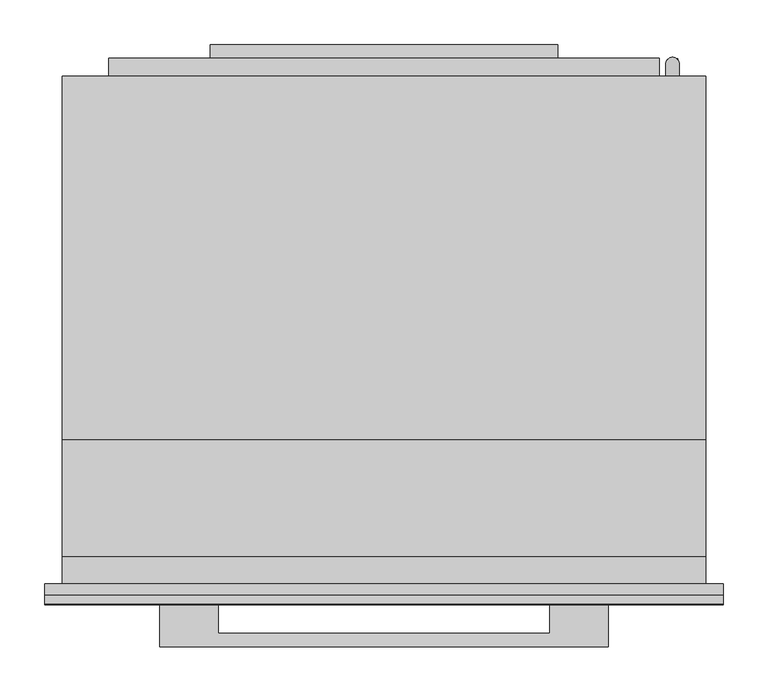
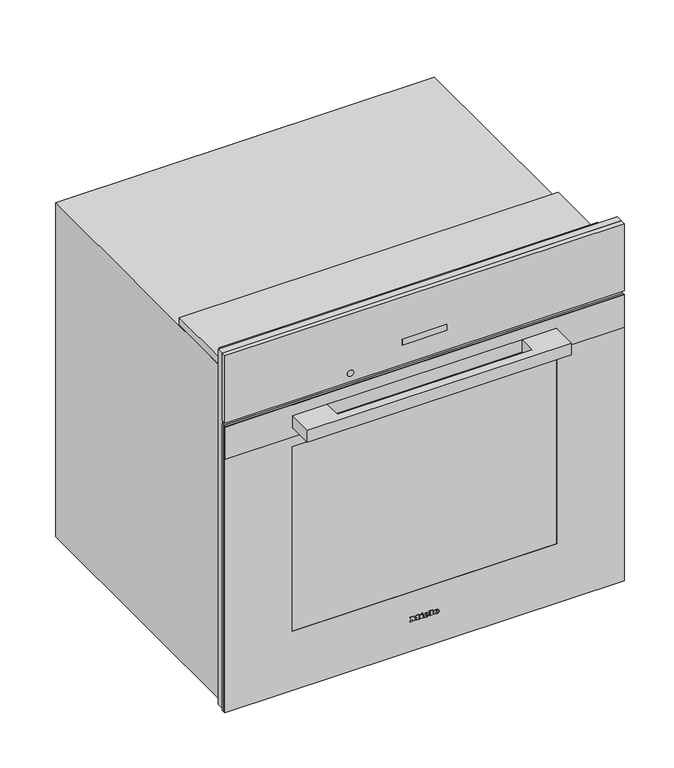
"""IFC4 building model written with IfcOpenShell, lengths in millimetres: proxy geometry, 11805500_USA_H7280BP_EDST-CLST : 22728045_USA_11805500_H7280BP_EDST-CLST."""

from ifc_helpers import new_model, si_unit, point, frame, frame_2d, origin, place, context, project, spatial, polyline, circle_curve, ellipse_curve, trimmed, segment, composite_curve, outline, extrude, faceted_brep, source, transform, mapped, element, save
from ifc_brep_helpers import plane_surface, cylinder_surface, revolved_surface, extruded_surface, advanced_brep


def specialty_equipment_05982ed7(model_context):
    return source(origin(), model_context, "Body", "SolidModel", [
        advanced_brep(
        [(21.28, -23.0, 73.133), (21.28, -23.0, 74.042), (27.301, -23.0, 74.042), (16.825, -23.0, 74.042), (19.3, -23.0, 71.0), (27.148, -23.0, 73.133), (24.43, -23.0, 73.133), (22.288, -23.0, 72.125), (21.28, -23.0, 75.194), (21.28, -23.0, 76.175), (22.819, -23.0, 76.175), (22.819, -23.0, 75.194), (21.28, -22.0, 73.133), (22.288, -22.0, 72.125), (24.43, -22.0, 73.133), (27.148, -22.0, 73.133), (19.3, -22.0, 71.0), (16.825, -22.0, 74.042), (27.301, -22.0, 74.042), (21.28, -22.0, 74.042), (21.28, -22.0, 75.194), (22.819, -22.0, 75.194), (22.819, -22.0, 76.175), (21.28, -22.0, 76.175)],
        [
            (0, 1),
            (1, 2),
            (2, 3, ellipse_curve(frame((22.063, -23.0, 74.042), z_axis=(0.0, -1.0, 0.0), x_axis=(-1.0, 0.0, 0.0)), 5.238, 4.329)),
            (3, 4, circle_curve(frame((20.3080491, -23.0, 74.348), z_axis=(0.0, -1.0, 0.0), x_axis=(0.0, 0.0, -1.0)), 3.4964649)),
            (4, 5, circle_curve(frame((21.9581428, -23.0, 76.724), z_axis=(0.0, -1.0, 0.0), x_axis=(0.0, 0.0, -1.0)), 6.3110933)),
            (5, 6),
            (6, 7, circle_curve(frame((22.7279412, -23.0, 73.97), z_axis=(0.0, 1.0, 0.0), x_axis=(0.0, 0.0, -1.0)), 1.896727)),
            (7, 0, circle_curve(frame((22.288, -23.0, 73.133), z_axis=(0.0, 1.0, 0.0), x_axis=(0.0, 0.0, -1.0)), 1.008)),
            (8, 9),
            (9, 10, circle_curve(frame((22.0495, -23.0, 76.175), z_axis=(0.0, 1.0, 0.0), x_axis=(0.0, 0.0, -1.0)), 0.7695)),
            (10, 11),
            (11, 8),
            (12, 13, circle_curve(frame((22.288, -22.0, 73.133), z_axis=(0.0, -1.0, 0.0), x_axis=(0.0, 0.0, -1.0)), 1.008)),
            (13, 14, circle_curve(frame((22.7279412, -22.0, 73.97), z_axis=(0.0, -1.0, 0.0), x_axis=(0.0, 0.0, -1.0)), 1.896727)),
            (14, 15),
            (15, 16, circle_curve(frame((21.9581428, -22.0, 76.724), z_axis=(0.0, 1.0, 0.0), x_axis=(0.0, 0.0, -1.0)), 6.3110933)),
            (16, 17, circle_curve(frame((20.3080491, -22.0, 74.348), z_axis=(0.0, 1.0, 0.0), x_axis=(0.0, 0.0, -1.0)), 3.4964649)),
            (17, 18, ellipse_curve(frame((22.063, -22.0, 74.042), z_axis=(0.0, 1.0, 0.0), x_axis=(-1.0, 0.0, 0.0)), 5.238, 4.329)),
            (18, 19),
            (19, 12),
            (20, 21),
            (21, 22),
            (22, 23, circle_curve(frame((22.0495, -22.0, 76.175), z_axis=(0.0, -1.0, 0.0), x_axis=(0.0, 0.0, -1.0)), 0.7695)),
            (23, 20),
            (0, 12),
            (19, 1),
            (18, 2),
            (5, 15),
            (14, 6),
            (17, 3),
            (13, 7),
            (16, 4),
            (8, 20),
            (23, 9),
            (22, 10),
            (21, 11),
        ],
        [
            plane_surface(frame((21.28, -23.0, 74.042), z_axis=(0.0, -1.0, 0.0), x_axis=(0.0, 0.0, 1.0))),
            plane_surface(frame((21.28, -22.0, 74.042), z_axis=(0.0, 1.0, 0.0), x_axis=(0.0, 0.0, -1.0))),
            plane_surface(frame((21.28, -23.0, 73.133), z_axis=(1.0, 0.0, 0.0), x_axis=(0.0, 1.0, 0.0))),
            plane_surface(frame((21.28, -23.0, 74.042), z_axis=(0.0, 0.0, -1.0), x_axis=(0.0, 1.0, 0.0))),
            plane_surface(frame((27.148, -23.0, 73.133), z_axis=(0.0, 0.0, 1.0), x_axis=(0.0, 1.0, 0.0))),
            extruded_surface(trimmed(ellipse_curve(frame((22.063, -21.0, 74.042), z_axis=(0.0, -1.0, 0.0), x_axis=(-1.0, 0.0, 0.0)), 5.238, 4.329), [point((27.301, -21.0, 74.042))], [point((16.825, -21.0, 74.042))], True, "CARTESIAN"), (0.0, -1.0, 0.0), 1.0),
            revolved_surface(polyline([(22.7279412, -22.0, 72.073273), (22.7279412, -23.0, 72.073273)]), (22.7279412, -22.0, 73.97), (0.0, 1.0, 0.0)),
            revolved_surface(polyline([(22.288, -22.0, 72.125), (22.288, -23.0, 72.125)]), (22.288, -22.0, 73.133), (0.0, 1.0, 0.0)),
            cylinder_surface(frame((20.3080491, -22.0, 74.348), z_axis=(0.0, -1.0, 0.0), x_axis=(0.0, 0.0, -1.0)), 3.4964649),
            cylinder_surface(frame((21.9581428, -22.0, 76.724), z_axis=(0.0, -1.0, 0.0), x_axis=(0.0, 0.0, -1.0)), 6.3110933),
            plane_surface(frame((21.28, -23.0, 75.194), z_axis=(1.0, 0.0, 0.0), x_axis=(0.0, 1.0, 0.0))),
            revolved_surface(polyline([(22.0495, -22.0, 75.4055), (22.0495, -23.0, 75.4055)]), (22.0495, -22.0, 76.175), (0.0, 1.0, 0.0)),
            plane_surface(frame((22.819, -23.0, 76.175), z_axis=(-1.0, 0.0, 0.0), x_axis=(0.0, 1.0, 0.0))),
            plane_surface(frame((22.819, -23.0, 75.194), z_axis=(0.0, 0.0, 1.0), x_axis=(0.0, 1.0, 0.0))),
        ],
        [
            (0, [[1, 2, 3, 4, 5, 6, 7, 8], [9, 10, 11, 12]]),
            (1, [[13, 14, 15, 16, 17, 18, 19, 20], [21, 22, 23, 24]]),
            (2, [[-1, 25, -20, 26]]),
            (3, [[-2, -26, -19, 27]]),
            (4, [[-6, 28, -15, 29]]),
            (5, [[-3, -27, -18, 30]]),
            (6, [[-7, -29, -14, 31]]),
            (7, [[-8, -31, -13, -25]]),
            (8, [[-4, -30, -17, 32]]),
            (9, [[-5, -32, -16, -28]]),
            (10, [[-9, 33, -24, 34]]),
            (11, [[-10, -34, -23, 35]]),
            (12, [[-11, -35, -22, 36]]),
            (13, [[-12, -36, -21, -33]]),
        ],
    ),
        advanced_brep(
        [(2.497, -23.0, 73.133), (2.497, -23.0, 74.042), (8.518, -23.0, 74.042), (-1.958, -23.0, 74.042), (0.517, -23.0, 71.0), (8.365, -23.0, 73.133), (5.647, -23.0, 73.133), (3.505, -23.0, 72.125), (2.497, -23.0, 75.194), (2.497, -23.0, 76.175), (4.036, -23.0, 76.175), (4.036, -23.0, 75.194), (2.497, -22.0, 73.133), (3.505, -22.0, 72.125), (5.647, -22.0, 73.133), (8.365, -22.0, 73.133), (0.517, -22.0, 71.0), (-1.958, -22.0, 74.042), (8.518, -22.0, 74.042), (2.497, -22.0, 74.042), (2.497, -22.0, 75.194), (4.036, -22.0, 75.194), (4.036, -22.0, 76.175), (2.497, -22.0, 76.175)],
        [
            (0, 1),
            (1, 2),
            (2, 3, ellipse_curve(frame((3.28, -23.0, 74.042), z_axis=(0.0, -1.0, 0.0), x_axis=(-1.0, 0.0, 0.0)), 5.238, 4.329)),
            (3, 4, circle_curve(frame((1.5250491, -23.0, 74.348), z_axis=(0.0, -1.0, 0.0), x_axis=(0.0, 0.0, -1.0)), 3.4964649)),
            (4, 5, circle_curve(frame((3.1751428, -23.0, 76.724), z_axis=(0.0, -1.0, 0.0), x_axis=(0.0, 0.0, -1.0)), 6.3110933)),
            (5, 6),
            (6, 7, circle_curve(frame((3.9449412, -23.0, 73.97), z_axis=(0.0, 1.0, 0.0), x_axis=(0.0, 0.0, -1.0)), 1.896727)),
            (7, 0, circle_curve(frame((3.505, -23.0, 73.133), z_axis=(0.0, 1.0, 0.0), x_axis=(0.0, 0.0, -1.0)), 1.008)),
            (8, 9),
            (9, 10, circle_curve(frame((3.2665, -23.0, 76.175), z_axis=(0.0, 1.0, 0.0), x_axis=(0.0, 0.0, -1.0)), 0.7695)),
            (10, 11),
            (11, 8),
            (12, 13, circle_curve(frame((3.505, -22.0, 73.133), z_axis=(0.0, -1.0, 0.0), x_axis=(0.0, 0.0, -1.0)), 1.008)),
            (13, 14, circle_curve(frame((3.9449412, -22.0, 73.97), z_axis=(0.0, -1.0, 0.0), x_axis=(0.0, 0.0, -1.0)), 1.896727)),
            (14, 15),
            (15, 16, circle_curve(frame((3.1751428, -22.0, 76.724), z_axis=(0.0, 1.0, 0.0), x_axis=(0.0, 0.0, -1.0)), 6.3110933)),
            (16, 17, circle_curve(frame((1.5250491, -22.0, 74.348), z_axis=(0.0, 1.0, 0.0), x_axis=(0.0, 0.0, -1.0)), 3.4964649)),
            (17, 18, ellipse_curve(frame((3.28, -22.0, 74.042), z_axis=(0.0, 1.0, 0.0), x_axis=(-1.0, 0.0, 0.0)), 5.238, 4.329)),
            (18, 19),
            (19, 12),
            (20, 21),
            (21, 22),
            (22, 23, circle_curve(frame((3.2665, -22.0, 76.175), z_axis=(0.0, -1.0, 0.0), x_axis=(0.0, 0.0, -1.0)), 0.7695)),
            (23, 20),
            (0, 12),
            (19, 1),
            (18, 2),
            (5, 15),
            (14, 6),
            (17, 3),
            (13, 7),
            (16, 4),
            (8, 20),
            (23, 9),
            (22, 10),
            (21, 11),
        ],
        [
            plane_surface(frame((2.497, -23.0, 74.042), z_axis=(0.0, -1.0, 0.0), x_axis=(0.0, 0.0, 1.0))),
            plane_surface(frame((2.497, -22.0, 74.042), z_axis=(0.0, 1.0, 0.0), x_axis=(0.0, 0.0, -1.0))),
            plane_surface(frame((2.497, -23.0, 73.133), z_axis=(1.0, 0.0, 0.0), x_axis=(0.0, 1.0, 0.0))),
            plane_surface(frame((2.497, -23.0, 74.042), z_axis=(0.0, 0.0, -1.0), x_axis=(0.0, 1.0, 0.0))),
            plane_surface(frame((8.365, -23.0, 73.133), z_axis=(0.0, 0.0, 1.0), x_axis=(0.0, 1.0, 0.0))),
            extruded_surface(trimmed(ellipse_curve(frame((3.28, -21.0, 74.042), z_axis=(0.0, -1.0, 0.0), x_axis=(-1.0, 0.0, 0.0)), 5.238, 4.329), [point((8.518, -21.0, 74.042))], [point((-1.958, -21.0, 74.042))], True, "CARTESIAN"), (0.0, -1.0, 0.0), 1.0),
            revolved_surface(polyline([(3.9449412, -22.0, 72.073273), (3.9449412, -23.0, 72.073273)]), (3.9449412, -22.0, 73.97), (0.0, 1.0, 0.0)),
            revolved_surface(polyline([(3.505, -22.0, 72.125), (3.505, -23.0, 72.125)]), (3.505, -22.0, 73.133), (0.0, 1.0, 0.0)),
            cylinder_surface(frame((1.5250491, -22.0, 74.348), z_axis=(0.0, -1.0, 0.0), x_axis=(0.0, 0.0, -1.0)), 3.4964649),
            cylinder_surface(frame((3.1751428, -22.0, 76.724), z_axis=(0.0, -1.0, 0.0), x_axis=(0.0, 0.0, -1.0)), 6.3110933),
            plane_surface(frame((2.497, -23.0, 75.194), z_axis=(1.0, 0.0, 0.0), x_axis=(0.0, 1.0, 0.0))),
            revolved_surface(polyline([(3.2665, -22.0, 75.4055), (3.2665, -23.0, 75.4055)]), (3.2665, -22.0, 76.175), (0.0, 1.0, 0.0)),
            plane_surface(frame((4.036, -23.0, 76.175), z_axis=(-1.0, 0.0, 0.0), x_axis=(0.0, 1.0, 0.0))),
            plane_surface(frame((4.036, -23.0, 75.194), z_axis=(0.0, 0.0, 1.0), x_axis=(0.0, 1.0, 0.0))),
        ],
        [
            (0, [[1, 2, 3, 4, 5, 6, 7, 8], [9, 10, 11, 12]]),
            (1, [[13, 14, 15, 16, 17, 18, 19, 20], [21, 22, 23, 24]]),
            (2, [[-1, 25, -20, 26]]),
            (3, [[-2, -26, -19, 27]]),
            (4, [[-6, 28, -15, 29]]),
            (5, [[-3, -27, -18, 30]]),
            (6, [[-7, -29, -14, 31]]),
            (7, [[-8, -31, -13, -25]]),
            (8, [[-4, -30, -17, 32]]),
            (9, [[-5, -32, -16, -28]]),
            (10, [[-9, 33, -24, 34]]),
            (11, [[-10, -34, -23, 35]]),
            (12, [[-11, -35, -22, 36]]),
            (13, [[-12, -36, -21, -33]]),
        ],
    ),
        extrude(outline(polyline([(79.469, -7.34), (78.011, -6.656), (79.433, -3.605), (80.891, -4.28), (79.469, -7.34)])), frame((0.0, -23.0, 0.0), z_axis=(0.0, 1.0, 0.0), x_axis=(0.0, 0.0, 1.0)), (0.0, 0.0, 1.0), 1.0),
        extrude(outline(polyline([(77.813, -9.563), (76.202, -9.563), (76.202, -8.492), (72.512, -8.492), (72.512, -9.563), (71.0, -9.563), (71.0, -2.462), (72.512, -2.462), (72.512, -3.506), (77.813, -3.506), (77.813, -9.563)])), frame((0.0, -23.0, 0.0), z_axis=(0.0, 1.0, 0.0), x_axis=(0.0, 0.0, 1.0)), (0.0, 0.0, 1.0), 1.0),
        extrude(outline(polyline([(78.533, 9.022), (78.533, 10.102), (72.512, 10.102), (72.512, 9.022), (71.0, 9.022), (71.0, 16.321), (72.512, 16.321), (72.512, 15.214), (80.0, 15.214), (80.0, 9.022), (78.533, 9.022)])), frame((0.0, -23.0, 0.0), z_axis=(0.0, 1.0, 0.0), x_axis=(0.0, 0.0, 1.0)), (0.0, 0.0, 1.0), 1.0),
        extrude(outline(polyline([(78.533, -27.5), (78.533, -26.411), (72.512, -26.411), (72.512, -27.5), (71.0, -27.5), (71.0, -23.54), (72.512, -23.54), (72.512, -24.62), (76.3341247, -24.62), (71.0, -20.597), (76.4402223, -16.556), (72.512, -16.556), (72.512, -17.663), (71.0, -17.663), (71.0, -10.481), (72.512, -10.481), (72.512, -11.624), (78.533, -11.624), (78.533, -10.481), (80.0, -10.481), (80.0, -15.962), (76.625, -18.59), (80.0, -21.227), (80.0, -27.5), (78.533, -27.5)])), frame((0.0, -23.0, 0.0), z_axis=(0.0, 1.0, 0.0), x_axis=(0.0, 0.0, 1.0)), (0.0, 0.0, 1.0), 1.0),
        extrude(outline(polyline([(-250.0, -70.3), (-250.0, -22.0), (-185.0, -22.0), (-185.0, -55.3), (185.0, -55.3), (185.0, -22.0), (250.0, -22.0), (250.0, -70.3), (-250.0, -70.3)])), frame((0.0, 0.0, 538.0), z_axis=(0.0, 0.0, 1.0), x_axis=(1.0, 0.0, 0.0)), (0.0, 0.0, 1.0), 24.0),
        extrude(outline(polyline([(585.0, 378.5), (585.0, -378.5), (11.0, -378.5), (11.0, 378.5), (585.0, 378.5)]), holes=[polyline([(500.0, 250.5), (130.0, 250.5), (130.0, -250.5), (500.0, -250.5), (500.0, 250.5)])]), frame((0.0, -22.0, 0.0), z_axis=(0.0, 1.0, 0.0), x_axis=(0.0, 0.0, 1.0)), (0.0, 0.0, 1.0), 4.0),
        extrude(outline(polyline([(585.0, 378.5), (585.0, -378.5), (520.0, -378.5), (520.0, 378.5), (585.0, 378.5)]), holes=[polyline([(562.5, -250.5), (562.5, 250.5), (537.5, 250.5), (537.5, -250.5), (562.5, -250.5)])]), frame((0.0, -23.3, 0.0), z_axis=(0.0, 1.0, 0.0), x_axis=(0.0, 0.0, 1.0)), (0.0, 0.0, 1.0), 1.3),
        extrude(outline(polyline([(378.5, -18.0), (-378.5, -18.0), (-378.5, -13.0), (378.5, -13.0), (378.5, -18.0)])), frame((0.0, 0.0, 11.0), z_axis=(0.0, 0.0, 1.0), x_axis=(1.0, 0.0, 0.0)), (0.0, 0.0, 1.0), 574.0),
        extrude(outline(polyline([(-250.5, -18.0), (250.5, -18.0), (250.5, -22.0), (-250.5, -22.0), (-250.5, -18.0)])), frame((0.0, 0.0, 130.0), z_axis=(0.0, 0.0, 1.0), x_axis=(1.0, 0.0, 0.0)), (0.0, 0.0, 1.0), 370.0),
        extrude(outline(polyline([(-42.5, -21.0), (42.5, -21.0), (42.5, -22.0), (-42.5, -22.0), (-42.5, -21.0)])), frame((0.0, 0.0, 630.5), z_axis=(0.0, 0.0, 1.0), x_axis=(1.0, 0.0, 0.0)), (0.0, 0.0, 1.0), 12.0),
        faceted_brep([(378.5, -22.0, 727.0), (-378.5, -22.0, 727.0), (-378.5, -22.0, 592.0), (378.5, -22.0, 592.0), (42.5, -22.0, 642.5), (42.5, -22.0, 630.5), (-42.5, -22.0, 630.5), (-42.5, -22.0, 642.5), (378.5, -13.0, 727.0), (378.5, -13.0, 592.0), (-378.5, -13.0, 592.0), (-378.5, -13.0, 727.0), (42.5, -21.0, 642.5), (-42.5, -21.0, 642.5), (-42.5, -21.0, 630.5), (42.5, -21.0, 630.5)], [[[0, 1, 2, 3], [4, 5, 6, 7]], [[8, 9, 10, 11]], [[1, 0, 8, 11]], [[2, 1, 11, 10]], [[3, 2, 10, 9]], [[0, 3, 9, 8]], [[12, 13, 14, 15]], [[12, 15, 5, 4]], [[15, 14, 6, 5]], [[14, 13, 7, 6]], [[13, 12, 4, 7]]]),
        extrude(outline(composite_curve([segment(trimmed(circle_curve(frame_2d((609.0, -140.5745637)), 6.0), [point((609.0, -146.5745637))], [point((609.0, -134.5745637))], False, "CARTESIAN"), True, "CONTINUOUS"), segment(trimmed(circle_curve(frame_2d((609.0, -140.5745637)), 6.0), [point((609.0, -134.5745637))], [point((609.0, -146.5745637))], False, "CARTESIAN"), True, "CONTINUOUS")], self_intersect=False)), frame((0.0, -22.5, 0.0), z_axis=(0.0, 1.0, 0.0), x_axis=(0.0, 0.0, 1.0)), (0.0, 0.0, 1.0), 1.0),
        extrude(outline(polyline([(327.856335, 586.4164958), (327.856335, 576.4164958), (322.0, 576.4164958), (322.0, 577.4164958), (326.856335, 577.4164958), (326.856335, 580.9164958), (323.9061855, 580.9164958), (323.9061855, 581.9164958), (326.856335, 581.9164958), (326.856335, 585.4164958), (322.0, 585.4164958), (322.0, 586.4164958), (327.856335, 586.4164958)])), frame((0.0, 0.0, 585.0), z_axis=(0.0, 0.0, 1.0), x_axis=(1.0, 0.0, 0.0)), (0.0, 0.0, 1.0), 1.0),
        extrude(outline(polyline([(320.5, 576.4164958), (315.5, 576.4164958), (315.5, 577.4164958), (319.3952098, 577.4164958), (319.3952098, 586.4164958), (320.5, 586.4164958), (320.5, 576.4164958)])), frame((0.0, 0.0, 585.0), z_axis=(0.0, 0.0, 1.0), x_axis=(1.0, 0.0, 0.0)), (0.0, 0.0, 1.0), 1.0),
        advanced_brep(
        [(329.5, 567.0, 616.0), (314.5, 567.0, 616.0), (329.5, 580.5, 616.0), (314.5, 580.5, 616.0), (329.5, 580.5, 586.0), (314.5, 580.5, 586.0)],
        [
            (0, 1, circle_curve(frame((322.0, 567.0, 616.0), z_axis=(0.0, -1.0, 0.0), x_axis=(-1.0, 0.0, 0.0)), 7.5)),
            (1, 0, circle_curve(frame((322.0, 567.0, 616.0), z_axis=(0.0, -1.0, 0.0), x_axis=(-1.0, 0.0, 0.0)), 7.5)),
            (0, 2),
            (2, 3, ellipse_curve(frame((322.0, 580.5, 616.0), z_axis=(0.0, -0.7071067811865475, 0.7071067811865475), x_axis=(0.0, -0.7071067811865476, -0.7071067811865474)), 10.6066017, 7.5)),
            (3, 1),
            (3, 2, ellipse_curve(frame((322.0, 580.5, 616.0), z_axis=(0.0, -0.7071067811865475, 0.7071067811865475), x_axis=(0.0, -0.7071067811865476, -0.7071067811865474)), 10.6066017, 7.5)),
            (4, 5, circle_curve(frame((322.0, 580.5, 586.0), z_axis=(0.0, 0.0, -1.0), x_axis=(-1.0, 0.0, 0.0)), 7.5)),
            (5, 4, circle_curve(frame((322.0, 580.5, 586.0), z_axis=(0.0, 0.0, -1.0), x_axis=(-1.0, 0.0, 0.0)), 7.5)),
            (2, 4),
            (5, 3),
        ],
        [
            plane_surface(frame((322.0, 567.0, 616.0), z_axis=(0.0, -1.0, 0.0), x_axis=(-1.0, 0.0, 0.0))),
            cylinder_surface(frame((322.0, 567.0, 616.0), z_axis=(0.0, -1.0, 0.0), x_axis=(-1.0, 0.0, 0.0)), 7.5),
            plane_surface(frame((322.0, 580.5, 586.0), z_axis=(0.0, 0.0, -1.0), x_axis=(-1.0, 0.0, 0.0))),
            cylinder_surface(frame((322.0, 580.5, 616.0), z_axis=(0.0, 0.0, 1.0), x_axis=(-1.0, 0.0, 0.0)), 7.5),
        ],
        [
            (0, [[1, 2]]),
            (1, [[-1, 3, 4, 5]]),
            (1, [[-2, -5, 6, -3]]),
            (2, [[7, 8]]),
            (3, [[-4, 9, -8, 10]]),
            (3, [[-6, -10, -7, -9]]),
        ],
    ),
        faceted_brep([(353.5, 25.0, 593.0), (-353.5, 25.0, 593.0), (-353.5, 25.0, 15.0), (353.5, 25.0, 15.0), (-312.5, 25.0, 526.0), (312.5, 25.0, 526.0), (312.5, 25.0, 103.0), (-312.5, 25.0, 103.0), (353.5, 0.0, 593.0), (-353.5, 0.0, 593.0), (-353.5, 0.0, 15.0), (353.5, 0.0, 15.0), (359.0, 0.0, 670.0), (359.0, 0.0, 0.0), (359.0, 567.0, 0.0), (359.0, 567.0, 670.0), (-359.0, 0.0, 0.0), (-359.0, 0.0, 670.0), (-359.0, 567.0, 670.0), (-359.0, 567.0, 0.0), (-307.0, 567.0, 0.0), (-307.0, 587.0, 0.0), (307.0, 587.0, 0.0), (307.0, 567.0, 0.0), (-307.0, 587.0, 584.0), (307.0, 587.0, 584.0), (312.5, 433.0, 526.0), (-312.5, 433.0, 526.0), (-312.5, 433.0, 103.0), (312.5, 433.0, 103.0), (-307.0, 567.0, 584.0), (307.0, 567.0, 584.0)], [[[0, 1, 2, 3], [4, 5, 6, 7]], [[1, 0, 8, 9]], [[2, 1, 9, 10]], [[0, 3, 11, 8]], [[12, 13, 14, 15]], [[16, 17, 18, 19]], [[13, 16, 19, 20, 21, 22, 23, 14]], [[22, 21, 24, 25]], [[17, 12, 15, 18]], [[16, 13, 12, 17], [9, 8, 11, 10]], [[26, 27, 28, 29]], [[27, 26, 5, 4]], [[28, 27, 4, 7]], [[29, 28, 7, 6]], [[26, 29, 6, 5]], [[3, 2, 10, 11]], [[25, 24, 30, 31]], [[20, 30, 24, 21]], [[14, 23, 31, 30, 20, 19, 18, 15]], [[31, 23, 22, 25]]]),
        extrude(outline(polyline([(-194.0, 602.0), (194.0, 602.0), (194.0, 587.0), (-194.0, 587.0), (-194.0, 602.0)])), frame((0.0, 0.0, 230.0), z_axis=(0.0, 0.0, 1.0), x_axis=(1.0, 0.0, 0.0)), (0.0, 0.0, 1.0), 158.0),
        extrude(outline(polyline([(30.0, 705.0), (30.0, 686.0), (161.0, 686.0), (161.0, 670.0), (0.0, 670.0), (0.0, 705.0), (30.0, 705.0)])), frame((-359.0, 0.0, 0.0), z_axis=(1.0, 0.0, 0.0), x_axis=(0.0, 1.0, 0.0)), (0.0, 0.0, 1.0), 718.0),
        extrude(outline(polyline([(15.0, 378.5), (727.0, 378.5), (727.0, -378.5), (15.0, -378.5), (15.0, -353.5), (593.0, -353.5), (593.0, 353.5), (15.0, 353.5), (15.0, 378.5)])), frame((0.0, -13.0, 0.0), z_axis=(0.0, 1.0, 0.0), x_axis=(0.0, 0.0, 1.0)), (0.0, 0.0, 1.0), 13.0),
    ])


if __name__ == "__main__":
    model = new_model("IFC4")
    model_context = context("Model", 3, world=origin())
    ifc_project = project(units=[si_unit("LENGTHUNIT", "METRE", prefix="MILLI")], contexts=[model_context])
    site = spatial("IfcSite", under=ifc_project)
    building = spatial("IfcBuilding", under=site)
    placement = place(None, origin())
    specialty_equipment_shape = specialty_equipment_05982ed7(model_context)
    element("IfcBuildingElementProxy", 1, Name="11805500_USA_H7280BP_EDST-CLST : 22728045_USA_11805500_H7280BP_EDST-CLST", ObjectType="11805500_USA_H7280BP_EDST-CLST : 22728045_USA_11805500_H7280BP_EDST-CLST", at=placement, inside=building, context=model_context, shape_type="MappedRepresentation", body=[
        mapped(specialty_equipment_shape, transform((0.0, 0.0, 0.0), x_axis=(1.0, 0.0, 0.0), y_axis=(0.0, 1.0, 0.0), z_axis=(0.0, 0.0, 1.0))),
    ])
    save(model, "model.ifc")
